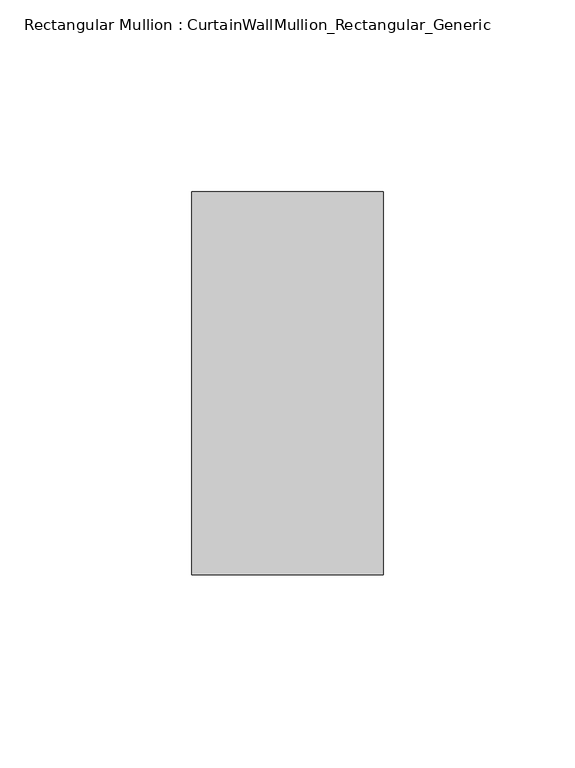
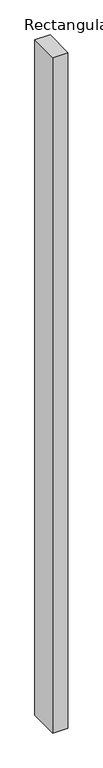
"""IFC4 building model written with IfcOpenShell, lengths in millimetres: member geometry, Rectangular Mullion : CurtainWallMullion_Rectangular_Generic."""

from ifc_helpers import new_model, si_unit, frame, origin, place, context, project, spatial, polyline, outline, extrude, source, transform, mapped, element, save


def rectangular_mullion_curtainwallmullion_rectangular_generic_766165b3(model_context):
    return source(origin(), model_context, "Body", "SweptSolid", [
        extrude(outline(polyline([(0.0, 50.0), (0.0, -50.0), (-50.0, -50.0), (-50.0, 50.0), (0.0, 50.0)])), frame((0.0, 0.0, -2327.1999999), z_axis=(0.0, 0.0, 1.0), x_axis=(1.0, 0.0, 0.0)), (0.0, 0.0, 1.0), 2327.1999999),
    ])


if __name__ == "__main__":
    model = new_model("IFC4")
    model_context = context("Model", 3, world=origin())
    ifc_project = project(units=[si_unit("LENGTHUNIT", "METRE", prefix="MILLI")], contexts=[model_context])
    site = spatial("IfcSite", under=ifc_project)
    building = spatial("IfcBuilding", under=site)
    placement = place(None, origin())
    rectangular_mullion_curtainwallmullion_rectangular_generic_shape = rectangular_mullion_curtainwallmullion_rectangular_generic_766165b3(model_context)
    element("IfcMember", 1, ObjectType="Rectangular Mullion : CurtainWallMullion_Rectangular_Generic", at=placement, inside=building, context=model_context, shape_type="MappedRepresentation", body=[
        mapped(rectangular_mullion_curtainwallmullion_rectangular_generic_shape, transform((0.0, 0.0, 0.0), x_axis=(1.0, 0.0, 0.0), y_axis=(0.0, 1.0, 0.0), z_axis=(0.0, 0.0, 1.0))),
    ])
    save(model, "model.ifc")
